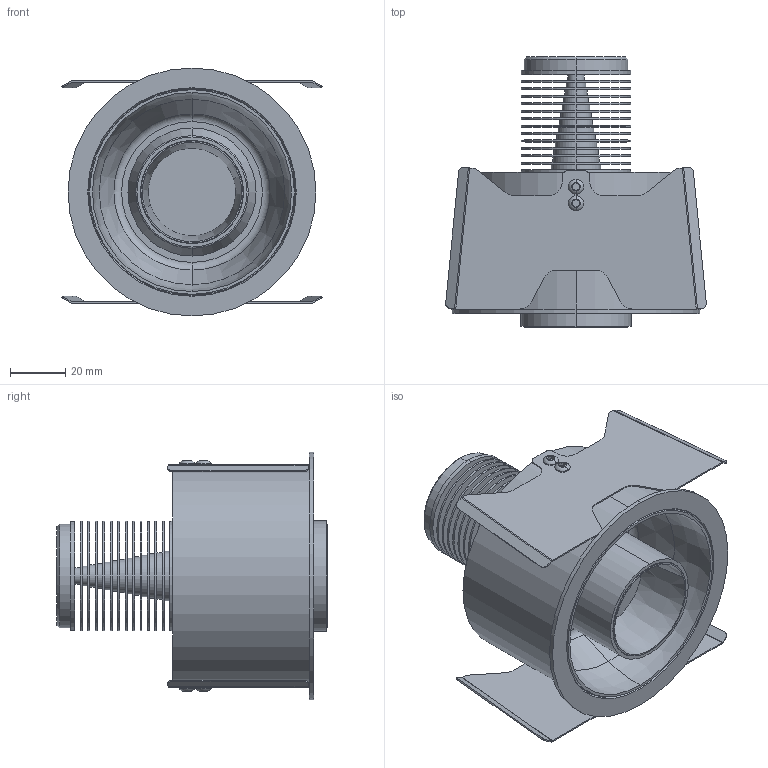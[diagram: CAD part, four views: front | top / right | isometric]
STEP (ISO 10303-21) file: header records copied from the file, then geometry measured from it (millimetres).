
FILE_DESCRIPTION (( 'STEP AP203' ), '1' );
FILE_NAME ('ARIEL mR.STEP', '2024-02-02T09:06:09', ( '' ), ( '' ), 'SwSTEP 2.0', 'SolidWorks 2023', '' );
FILE_SCHEMA (( 'CONFIG_CONTROL_DESIGN' ));
Length unit declared in the file: millimetre
Products named in the file (7): Controcassa Ariel mR; 105355--REV C; Vite M3x3 TBEI; cilindro controcassa Ariel mR; Modulo Ariel R; 105509--; ARIEL mR
Assembly tree (10 placements, depth 3):
  ARIEL mR
    Modulo Ariel R
    105355--REV C
    Controcassa Ariel mR
      cilindro controcassa Ariel mR
      105509--  x2
      Vite M3x3 TBEI  x4
Bounding box: 94.24 x 97.8 x 89.7 mm (x, y, z)
Volume: 181854.5 mm3; surface area: 112139.2 mm2
Topology: 9 solids, 9 shells, 346 faces, 780 edges, 489 vertices
Faces by surface type: plane 148, cylinder 138, cone 40, torus 20
Entity records: 7320 total; most frequent: DIRECTION 1269, CARTESIAN_POINT 1087, ORIENTED_EDGE 1018, AXIS2_PLACEMENT_3D 515, EDGE_CURVE 509, VERTEX_POINT 319, EDGE_LOOP 274, CIRCLE 268
